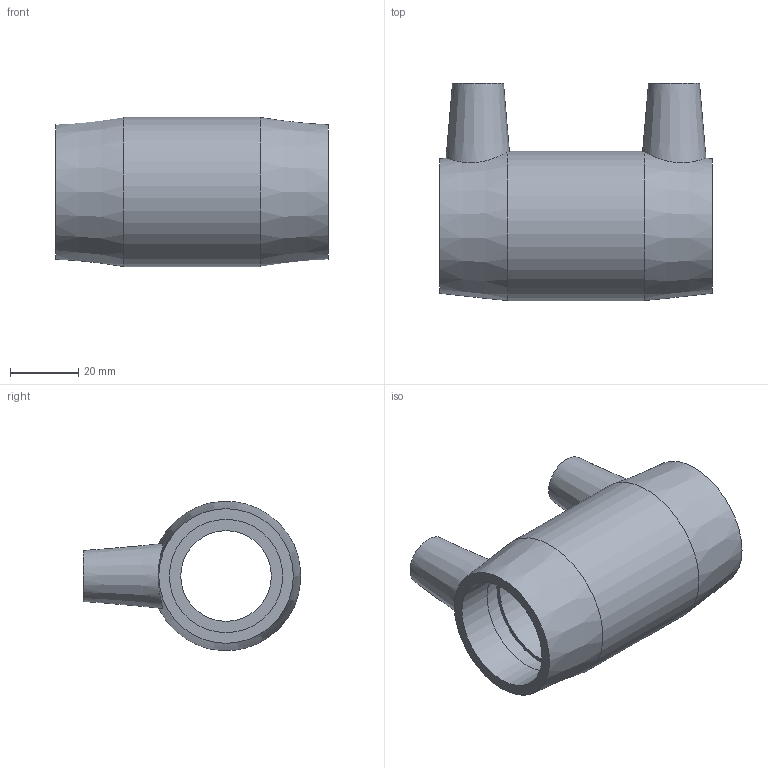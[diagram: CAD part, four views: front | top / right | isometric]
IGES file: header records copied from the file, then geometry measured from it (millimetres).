
Global section: file name: 5901U004010.ipt; native system: Autodesk Inventor 2019; preprocessor: unknown; author: KIM; date: 20210830.100936; units: inch
Bounding box: 80.01 x 63.8 x 43.85 mm (x, y, z)
Volume: 53447.4 mm3; surface area: 24068 mm2
Topology: 1 solids, 1 shells, 30 faces, 66 edges, 46 vertices
Faces by surface type: plane 12, revolution 11, cone 4, cylinder 3
Full cylindrical faces by diameter (mm): 4 x2, 43.942 x1
